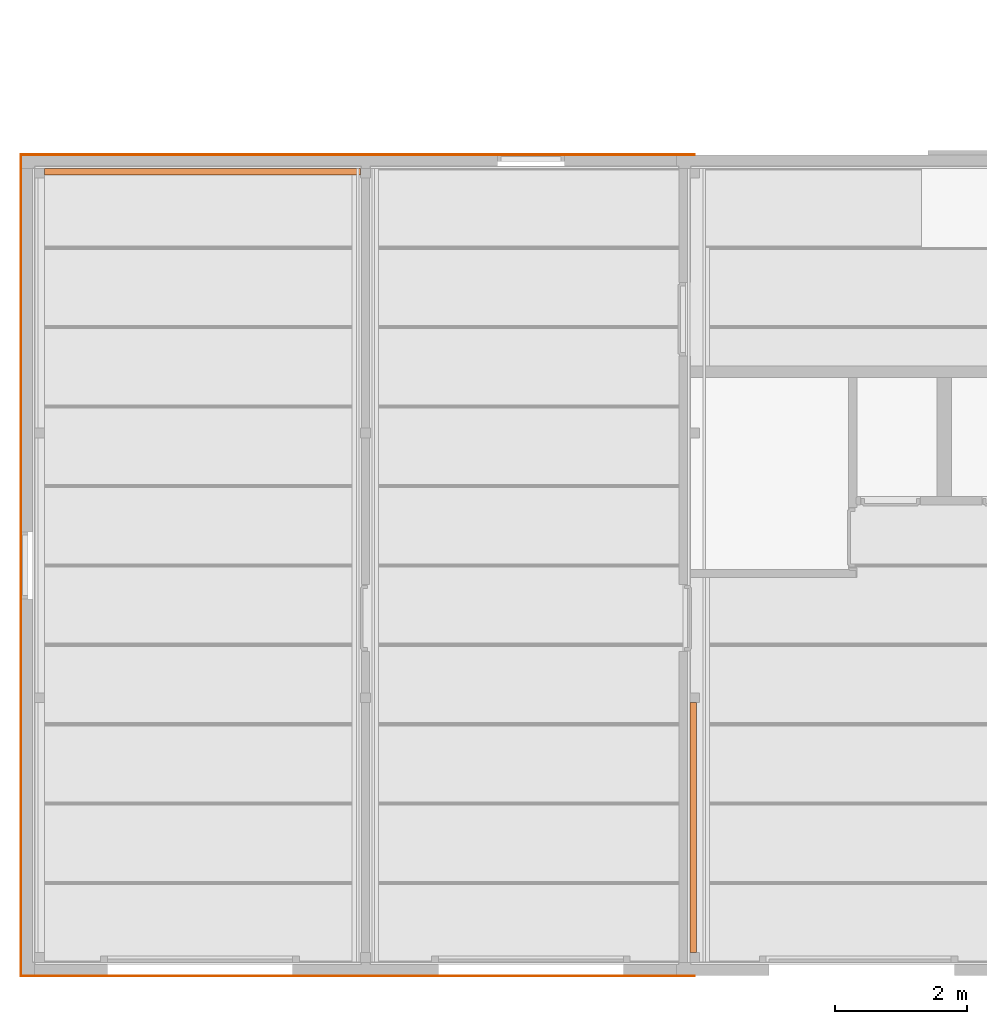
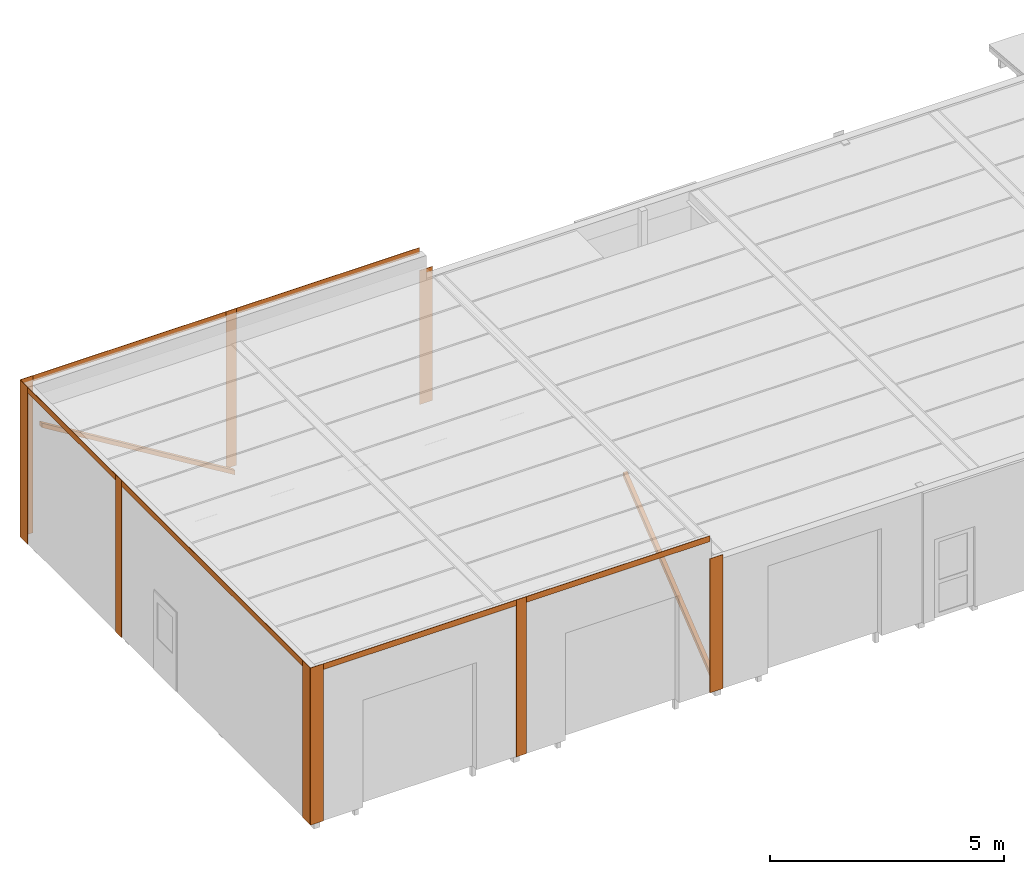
# One storey, part 42 of 45: 14 proxies.
"""IFC2X3 building model written with IfcOpenShell, lengths in millimetres."""

from ifc_helpers import new_model, entity, si_unit, converted_unit, frame, origin, place, context, subcontext, project, spatial, faceted_brep, material, element, save


model = new_model("IFC2X3")

# Units and contexts
model_context = context("Model", 3, precision=1e-05, world=origin())
plan_context = context("Plan", 3, precision=1e-05, world=origin())
body_context = subcontext(model_context, "Body", "Model", "MODEL_VIEW")
ifc_project = project(units=[si_unit("LENGTHUNIT", "METRE", prefix="MILLI"), converted_unit("PLANEANGLEUNIT", "DEGREE", entity("IfcPlaneAngleMeasure", 0.0174532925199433), si_unit("PLANEANGLEUNIT", "RADIAN"), dimensions=[0, 0, 0, 0, 0, 0, 0]), si_unit("AREAUNIT", "SQUARE_METRE"), si_unit("VOLUMEUNIT", "CUBIC_METRE")], contexts=[model_context, plan_context])

# Building, storey
building_placement = place(None, origin())
building = spatial("IfcBuilding", under=ifc_project, at=building_placement, Name="HEKF Administrasjonbygg", CompositionType="ELEMENT")
storey_placement = place(building_placement, frame((0.0, 0.0, 6500.0), z_axis=(0.0, 0.0, 1.0), x_axis=(1.0, 0.0, 0.0)))
storey = spatial("IfcBuildingStorey", under=building, at=storey_placement, Name="Plan 1", CompositionType="ELEMENT", Elevation=6500.0)

# Proxies
ifc_material_1 = material(Name="HUP100x200")
proxy_1_placement = place(storey_placement, frame((149.9900000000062, -100.0099999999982, -0.01000000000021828), z_axis=(0.0, 0.0, 1.0), x_axis=(1.0, 0.0, 0.0)))
element("IfcBuildingElementProxy", 1, at=proxy_1_placement, inside=storey, material=ifc_material_1, context=body_context, shape_type="Brep", body=[
    faceted_brep([(0.01000000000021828, 100.0100000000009, 3026.578014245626), (0.01000000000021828, 100.0100000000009, 2909.477130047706), (4775.009999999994, 100.01, 0.01000000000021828), (4775.009999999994, 100.01, 117.1108841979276), (0.01000000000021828, 0.0100000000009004, 2909.477130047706), (0.01000000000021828, 0.0100000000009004, 3026.578014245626), (4775.009999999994, 0.009999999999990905, 117.1108841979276), (4775.009999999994, 0.009999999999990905, 0.01000000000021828), (0.01000000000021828, 100.0100000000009, 2909.477130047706), (0.01000000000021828, 100.0100000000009, 3026.578014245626), (0.01000000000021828, 0.0100000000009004, 3026.578014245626), (0.01000000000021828, 0.0100000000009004, 2909.477130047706), (4775.009999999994, 100.01, 0.01000000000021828), (0.01000000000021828, 100.0100000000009, 2909.477130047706), (0.01000000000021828, 0.0100000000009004, 2909.477130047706), (4775.009999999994, 0.009999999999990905, 0.01000000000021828), (4775.009999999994, 100.01, 117.1108841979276), (4775.009999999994, 100.01, 0.01000000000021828), (4775.009999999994, 0.009999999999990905, 0.01000000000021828), (4775.009999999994, 0.009999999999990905, 117.1108841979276), (0.01000000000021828, 100.0100000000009, 3026.578014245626), (4775.009999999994, 100.01, 117.1108841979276), (4775.009999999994, 0.009999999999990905, 117.1108841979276), (0.01000000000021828, 0.0100000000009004, 3026.578014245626)], [[[0, 1, 2, 3]], [[4, 5, 6, 7]], [[8, 9, 10, 11]], [[12, 13, 14, 15]], [[16, 17, 18, 19]], [[20, 21, 22, 23]]], orient=[[False], [False], [False], [False], [False], [False]]),
])
ifc_material_2 = material(Name="HUP100x200")
proxy_2_placement = place(storey_placement, frame((9899.989999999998, -11850.00999999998, 17.7515429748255), z_axis=(0.0, 0.0, 1.0), x_axis=(1.0, 0.0, 0.0)))
element("IfcBuildingElementProxy", 2, at=proxy_2_placement, inside=storey, material=ifc_material_2, context=body_context, shape_type="Brep", body=[
    faceted_brep([(0.01000000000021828, 0.01000000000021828, 128.1404923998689), (0.01000000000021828, 0.01000000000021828, 0.01000000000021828), (0.01000000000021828, 3775.009999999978, 3024.117964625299), (0.01000000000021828, 3775.009999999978, 3152.248457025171), (100.0100000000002, 0.01000000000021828, 0.01000000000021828), (100.0100000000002, 0.01000000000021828, 128.1404923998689), (100.0100000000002, 3775.009999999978, 3152.248457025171), (100.0100000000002, 3775.009999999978, 3024.117964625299), (0.01000000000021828, 0.01000000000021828, 0.01000000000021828), (0.01000000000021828, 0.01000000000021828, 128.1404923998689), (100.0100000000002, 0.01000000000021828, 128.1404923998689), (100.0100000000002, 0.01000000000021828, 0.01000000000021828), (0.01000000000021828, 3775.009999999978, 3024.117964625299), (0.01000000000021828, 0.01000000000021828, 0.01000000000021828), (100.0100000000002, 0.01000000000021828, 0.01000000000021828), (100.0100000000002, 3775.009999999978, 3024.117964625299), (0.01000000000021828, 3775.009999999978, 3152.248457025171), (0.01000000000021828, 3775.009999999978, 3024.117964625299), (100.0100000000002, 3775.009999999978, 3024.117964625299), (100.0100000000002, 3775.009999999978, 3152.248457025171), (0.01000000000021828, 0.01000000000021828, 128.1404923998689), (0.01000000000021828, 3775.009999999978, 3152.248457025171), (100.0100000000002, 3775.009999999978, 3152.248457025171), (100.0100000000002, 0.01000000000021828, 128.1404923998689)], [[[0, 1, 2, 3]], [[4, 5, 6, 7]], [[8, 9, 10, 11]], [[12, 13, 14, 15]], [[16, 17, 18, 19]], [[20, 21, 22, 23]]], orient=[[False], [False], [False], [False], [False], [False]]),
])
ifc_material_3 = material(Name="T24")
proxy_3_placement = place(storey_placement, frame((4874.990000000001, -12210.01000000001, -0.01000000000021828), z_axis=(0.0, 0.0, 1.0), x_axis=(1.0, 0.0, 0.0)))
element("IfcBuildingElementProxy", 3, at=proxy_3_placement, inside=storey, material=ifc_material_3, context=body_context, shape_type="Brep", body=[
    faceted_brep([(0.01000000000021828, 10.01000000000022, 0.01000000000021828), (0.01000000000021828, 10.01000000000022, 4100.01), (0.01000000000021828, 0.01000000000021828, 4100.01), (0.01000000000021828, 0.01000000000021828, 0.01000000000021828), (250.0100000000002, 10.01000000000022, 0.01000000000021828), (0.01000000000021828, 10.01000000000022, 0.01000000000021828), (0.01000000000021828, 0.01000000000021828, 0.01000000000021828), (250.0100000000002, 0.01000000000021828, 0.01000000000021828), (250.0100000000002, 10.01000000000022, 4100.01), (250.0100000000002, 10.01000000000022, 0.01000000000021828), (250.0100000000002, 0.01000000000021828, 0.01000000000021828), (250.0100000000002, 0.01000000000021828, 4100.01), (0.01000000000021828, 10.01000000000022, 4100.01), (250.0100000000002, 10.01000000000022, 4100.01), (250.0100000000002, 0.01000000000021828, 4100.01), (0.01000000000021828, 0.01000000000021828, 4100.01), (0.01000000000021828, 0.01000000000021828, 0.01000000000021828), (0.01000000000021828, 0.01000000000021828, 4100.01), (250.0100000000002, 0.01000000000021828, 4100.01), (250.0100000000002, 0.01000000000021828, 0.01000000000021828), (250.0100000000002, 10.01000000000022, 0.01000000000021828), (250.0100000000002, 10.01000000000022, 4100.01), (0.01000000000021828, 10.01000000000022, 4100.01), (0.01000000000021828, 10.01000000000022, 0.01000000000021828)], [[[0, 1, 2, 3]], [[4, 5, 6, 7]], [[8, 9, 10, 11]], [[12, 13, 14, 15]], [[16, 17, 18, 19]], [[20, 21, 22, 23]]], orient=[[False], [False], [False], [False], [False], [False]]),
])
ifc_material_4 = material(Name="T24")
proxy_4_placement = place(storey_placement, frame((-210.0100000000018, -12210.01000000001, -0.01000000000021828), z_axis=(0.0, 0.0, 1.0), x_axis=(1.0, 0.0, 0.0)))
element("IfcBuildingElementProxy", 4, at=proxy_4_placement, inside=storey, material=ifc_material_4, context=body_context, shape_type="Brep", body=[
    faceted_brep([(320.01, 0.01000000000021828, 0.01000000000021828), (320.01, 0.01000000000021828, 4100.01), (320.01, 10.01000000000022, 4100.01), (320.01, 10.01000000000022, 0.01000000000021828), (0.009999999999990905, 0.01000000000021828, 0.01000000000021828), (320.01, 0.01000000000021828, 0.01000000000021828), (320.01, 10.01000000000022, 0.01000000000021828), (0.009999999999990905, 10.01000000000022, 0.01000000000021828), (0.009999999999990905, 0.01000000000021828, 4100.01), (0.009999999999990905, 0.01000000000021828, 0.01000000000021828), (0.009999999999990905, 10.01000000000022, 0.01000000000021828), (0.009999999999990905, 10.01000000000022, 4100.01), (320.01, 0.01000000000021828, 4100.01), (0.009999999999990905, 0.01000000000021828, 4100.01), (0.009999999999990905, 10.01000000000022, 4100.01), (320.01, 10.01000000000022, 4100.01), (320.01, 10.01000000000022, 0.01000000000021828), (320.01, 10.01000000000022, 4100.01), (0.009999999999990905, 10.01000000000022, 4100.01), (0.009999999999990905, 10.01000000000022, 0.01000000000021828), (0.009999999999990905, 0.01000000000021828, 0.01000000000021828), (0.009999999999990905, 0.01000000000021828, 4100.01), (320.01, 0.01000000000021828, 4100.01), (320.01, 0.01000000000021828, 0.01000000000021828)], [[[0, 1, 2, 3]], [[4, 5, 6, 7]], [[8, 9, 10, 11]], [[12, 13, 14, 15]], [[16, 17, 18, 19]], [[20, 21, 22, 23]]], orient=[[False], [False], [False], [False], [False], [False]]),
])
ifc_material_5 = material(Name="T24")
proxy_5_placement = place(storey_placement, frame((-210.010000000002, -12210.01000000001, 3949.99), z_axis=(0.0, 0.0, 1.0), x_axis=(1.0, 0.0, 0.0)))
element("IfcBuildingElementProxy", 5, at=proxy_5_placement, inside=storey, material=ifc_material_5, context=body_context, shape_type="Brep", body=[
    faceted_brep([(9864.010000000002, 10.01000000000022, 0.01000000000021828), (0.009999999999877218, 10.01000000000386, 0.01000000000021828), (0.009999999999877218, 0.01000000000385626, 0.01000000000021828), (9864.010000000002, 0.01000000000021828, 0.01000000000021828), (9864.010000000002, 10.01000000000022, 150.0100000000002), (9864.010000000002, 10.01000000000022, 0.01000000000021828), (9864.010000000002, 0.01000000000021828, 0.01000000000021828), (9864.010000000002, 0.01000000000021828, 150.0100000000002), (0.009999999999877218, 10.01000000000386, 150.0100000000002), (9864.010000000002, 10.01000000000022, 150.0100000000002), (9864.010000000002, 0.01000000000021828, 150.0100000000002), (0.009999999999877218, 0.01000000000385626, 150.0100000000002), (0.009999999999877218, 10.01000000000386, 0.01000000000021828), (0.009999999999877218, 10.01000000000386, 150.0100000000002), (0.009999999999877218, 0.01000000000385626, 150.0100000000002), (0.009999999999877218, 0.01000000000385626, 0.01000000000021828), (9864.010000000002, 0.01000000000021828, 0.01000000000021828), (0.009999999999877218, 0.01000000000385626, 0.01000000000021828), (0.009999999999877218, 0.01000000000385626, 150.0100000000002), (9864.010000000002, 0.01000000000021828, 150.0100000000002), (9864.010000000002, 10.01000000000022, 150.0100000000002), (0.009999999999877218, 10.01000000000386, 150.0100000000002), (0.009999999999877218, 10.01000000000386, 0.01000000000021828), (9864.010000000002, 10.01000000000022, 0.01000000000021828)], [[[0, 1, 2, 3]], [[4, 5, 6, 7]], [[8, 9, 10, 11]], [[12, 13, 14, 15]], [[16, 17, 18, 19]], [[20, 21, 22, 23]]], orient=[[False], [False], [False], [False], [False], [False]]),
])
ifc_material_6 = material(Name="T24")
proxy_6_placement = place(storey_placement, frame((-210.0100000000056, -12200.01, -0.01000000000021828), z_axis=(0.0, 0.0, 1.0), x_axis=(1.0, 0.0, 0.0)))
element("IfcBuildingElementProxy", 6, at=proxy_6_placement, inside=storey, material=ifc_material_6, context=body_context, shape_type="Brep", body=[
    faceted_brep([(0.009999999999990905, 320.0100000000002, 0.01000000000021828), (10.00999999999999, 320.0100000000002, 0.01000000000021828), (10.00999999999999, 320.0100000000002, 4100.01), (0.009999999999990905, 320.0100000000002, 4100.01), (0.009999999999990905, 0.01000000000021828, 0.01000000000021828), (10.00999999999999, 0.01000000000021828, 0.01000000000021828), (10.00999999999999, 320.0100000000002, 0.01000000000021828), (0.009999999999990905, 320.0100000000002, 0.01000000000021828), (0.009999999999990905, 0.01000000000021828, 4100.01), (10.00999999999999, 0.01000000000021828, 4100.01), (10.00999999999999, 0.01000000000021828, 0.01000000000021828), (0.009999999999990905, 0.01000000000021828, 0.01000000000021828), (0.009999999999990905, 320.0100000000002, 4100.01), (10.00999999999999, 320.0100000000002, 4100.01), (10.00999999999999, 0.01000000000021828, 4100.01), (0.009999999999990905, 0.01000000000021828, 4100.01), (10.00999999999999, 320.0100000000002, 0.01000000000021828), (10.00999999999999, 0.01000000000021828, 0.01000000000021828), (10.00999999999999, 0.01000000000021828, 4100.01), (10.00999999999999, 320.0100000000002, 4100.01), (0.009999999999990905, 0.01000000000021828, 0.01000000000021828), (0.009999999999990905, 320.0100000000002, 0.01000000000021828), (0.009999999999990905, 320.0100000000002, 4100.01), (0.009999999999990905, 0.01000000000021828, 4100.01)], [[[0, 1, 2, 3]], [[4, 5, 6, 7]], [[8, 9, 10, 11]], [[12, 13, 14, 15]], [[16, 17, 18, 19]], [[20, 21, 22, 23]]], orient=[[False], [False], [False], [False], [False], [False]]),
])
ifc_material_7 = material(Name="T24")
proxy_7_placement = place(storey_placement, frame((-210.010000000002, -12200.01, 3949.99), z_axis=(0.0, 0.0, 1.0), x_axis=(1.0, 0.0, 0.0)))
element("IfcBuildingElementProxy", 7, at=proxy_7_placement, inside=storey, material=ifc_material_7, context=body_context, shape_type="Brep", body=[
    faceted_brep([(10.01000000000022, 12230.01000000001, 0.01000000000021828), (0.01000000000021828, 12230.01000000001, 0.01000000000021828), (0.009999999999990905, 0.01000000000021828, 0.01000000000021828), (10.00999999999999, 0.01000000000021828, 0.01000000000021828), (10.01000000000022, 12230.01000000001, 150.0100000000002), (0.01000000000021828, 12230.01000000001, 150.0100000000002), (0.01000000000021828, 12230.01000000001, 0.01000000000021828), (10.01000000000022, 12230.01000000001, 0.01000000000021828), (10.00999999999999, 0.01000000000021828, 150.0100000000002), (0.009999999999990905, 0.01000000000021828, 150.0100000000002), (0.01000000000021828, 12230.01000000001, 150.0100000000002), (10.01000000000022, 12230.01000000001, 150.0100000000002), (10.00999999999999, 0.01000000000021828, 0.01000000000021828), (0.009999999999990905, 0.01000000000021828, 0.01000000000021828), (0.009999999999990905, 0.01000000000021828, 150.0100000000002), (10.00999999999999, 0.01000000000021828, 150.0100000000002), (0.01000000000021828, 12230.01000000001, 0.01000000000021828), (0.01000000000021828, 12230.01000000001, 150.0100000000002), (0.009999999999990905, 0.01000000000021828, 150.0100000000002), (0.009999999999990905, 0.01000000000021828, 0.01000000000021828), (10.01000000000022, 12230.01000000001, 150.0100000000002), (10.01000000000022, 12230.01000000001, 0.01000000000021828), (10.00999999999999, 0.01000000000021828, 0.01000000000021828), (10.00999999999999, 0.01000000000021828, 150.0100000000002)], [[[0, 1, 2, 3]], [[4, 5, 6, 7]], [[8, 9, 10, 11]], [[12, 13, 14, 15]], [[16, 17, 18, 19]], [[20, 21, 22, 23]]], orient=[[False], [False], [False], [False], [False], [False]]),
])
ifc_material_8 = material(Name="T24")
proxy_8_placement = place(storey_placement, frame((-210.0099999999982, -120.0099999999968, -0.01000000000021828), z_axis=(0.0, 0.0, 1.0), x_axis=(1.0, 0.0, 0.0)))
element("IfcBuildingElementProxy", 8, at=proxy_8_placement, inside=storey, material=ifc_material_8, context=body_context, shape_type="Brep", body=[
    faceted_brep([(0.009999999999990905, 320.01, 0.01000000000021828), (10.00999999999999, 320.01, 0.01000000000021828), (10.00999999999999, 320.0100000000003, 4100.01), (0.009999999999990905, 320.0100000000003, 4100.01), (0.009999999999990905, 0.009999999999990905, 0.01000000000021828), (10.00999999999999, 0.009999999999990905, 0.01000000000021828), (10.00999999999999, 320.01, 0.01000000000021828), (0.009999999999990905, 320.01, 0.01000000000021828), (0.009999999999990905, 0.01000000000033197, 4100.01), (10.00999999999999, 0.01000000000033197, 4100.01), (10.00999999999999, 0.009999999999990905, 0.01000000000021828), (0.009999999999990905, 0.009999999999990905, 0.01000000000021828), (0.009999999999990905, 320.0100000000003, 4100.01), (10.00999999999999, 320.0100000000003, 4100.01), (10.00999999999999, 0.01000000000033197, 4100.01), (0.009999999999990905, 0.01000000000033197, 4100.01), (10.00999999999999, 320.01, 0.01000000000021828), (10.00999999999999, 0.009999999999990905, 0.01000000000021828), (10.00999999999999, 0.01000000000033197, 4100.01), (10.00999999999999, 320.0100000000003, 4100.01), (0.009999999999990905, 0.009999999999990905, 0.01000000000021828), (0.009999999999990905, 320.01, 0.01000000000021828), (0.009999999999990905, 320.0100000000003, 4100.01), (0.009999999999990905, 0.01000000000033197, 4100.01)], [[[0, 1, 2, 3]], [[4, 5, 6, 7]], [[8, 9, 10, 11]], [[12, 13, 14, 15]], [[16, 17, 18, 19]], [[20, 21, 22, 23]]], orient=[[False], [False], [False], [False], [False], [False]]),
])
ifc_material_9 = material(Name="T24")
proxy_9_placement = place(storey_placement, frame((-210.0100000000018, 199.9900000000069, -0.01000000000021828), z_axis=(0.0, 0.0, 1.0), x_axis=(1.0, 0.0, 0.0)))
element("IfcBuildingElementProxy", 9, at=proxy_9_placement, inside=storey, material=ifc_material_9, context=body_context, shape_type="Brep", body=[
    faceted_brep([(320.01, 10.00999999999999, 0.01000000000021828), (320.01, 0.009999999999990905, 0.01000000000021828), (320.01, 0.01000000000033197, 4100.01), (320.01, 10.01000000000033, 4100.01), (0.009999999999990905, 10.00999999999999, 0.01000000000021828), (0.009999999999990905, 0.009999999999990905, 0.01000000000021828), (320.01, 0.009999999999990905, 0.01000000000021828), (320.01, 10.00999999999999, 0.01000000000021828), (0.009999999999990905, 10.01000000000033, 4100.01), (0.009999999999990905, 0.01000000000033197, 4100.01), (0.009999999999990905, 0.009999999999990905, 0.01000000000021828), (0.009999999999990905, 10.00999999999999, 0.01000000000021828), (320.01, 10.01000000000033, 4100.01), (320.01, 0.01000000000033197, 4100.01), (0.009999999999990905, 0.01000000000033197, 4100.01), (0.009999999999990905, 10.01000000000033, 4100.01), (320.01, 0.009999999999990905, 0.01000000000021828), (0.009999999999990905, 0.009999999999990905, 0.01000000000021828), (0.009999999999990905, 0.01000000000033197, 4100.01), (320.01, 0.01000000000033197, 4100.01), (0.009999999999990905, 10.00999999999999, 0.01000000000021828), (320.01, 10.00999999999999, 0.01000000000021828), (320.01, 10.01000000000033, 4100.01), (0.009999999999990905, 10.01000000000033, 4100.01)], [[[0, 1, 2, 3]], [[4, 5, 6, 7]], [[8, 9, 10, 11]], [[12, 13, 14, 15]], [[16, 17, 18, 19]], [[20, 21, 22, 23]]], orient=[[False], [False], [False], [False], [False], [False]]),
])
ifc_material_10 = material(Name="T24")
proxy_10_placement = place(storey_placement, frame((109.989999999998, 199.9900000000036, 3949.99), z_axis=(0.0, 0.0, 1.0), x_axis=(1.0, 0.0, 0.0)))
element("IfcBuildingElementProxy", 10, at=proxy_10_placement, inside=storey, material=ifc_material_10, context=body_context, shape_type="Brep", body=[
    faceted_brep([(9544.010000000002, 0.01000000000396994, 0.01000000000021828), (9544.010000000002, 10.01000000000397, 0.01000000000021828), (0.01000000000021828, 10.00999999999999, 0.01000000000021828), (0.01000000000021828, 0.009999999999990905, 0.01000000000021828), (9544.010000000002, 0.01000000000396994, 150.0100000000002), (9544.010000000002, 10.01000000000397, 150.0100000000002), (9544.010000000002, 10.01000000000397, 0.01000000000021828), (9544.010000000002, 0.01000000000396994, 0.01000000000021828), (0.01000000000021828, 0.009999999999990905, 150.0100000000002), (0.01000000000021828, 10.00999999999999, 150.0100000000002), (9544.010000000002, 10.01000000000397, 150.0100000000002), (9544.010000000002, 0.01000000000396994, 150.0100000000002), (0.01000000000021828, 0.009999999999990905, 0.01000000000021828), (0.01000000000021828, 10.00999999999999, 0.01000000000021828), (0.01000000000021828, 10.00999999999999, 150.0100000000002), (0.01000000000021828, 0.009999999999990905, 150.0100000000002), (9544.010000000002, 10.01000000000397, 0.01000000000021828), (9544.010000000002, 10.01000000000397, 150.0100000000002), (0.01000000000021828, 10.00999999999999, 150.0100000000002), (0.01000000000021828, 10.00999999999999, 0.01000000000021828), (9544.010000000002, 0.01000000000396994, 150.0100000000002), (9544.010000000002, 0.01000000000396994, 0.01000000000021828), (0.01000000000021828, 0.009999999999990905, 0.01000000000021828), (0.01000000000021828, 0.009999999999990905, 150.0100000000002)], [[[0, 1, 2, 3]], [[4, 5, 6, 7]], [[8, 9, 10, 11]], [[12, 13, 14, 15]], [[16, 17, 18, 19]], [[20, 21, 22, 23]]], orient=[[False], [False], [False], [False], [False], [False]]),
])
ifc_material_11 = material(Name="T24")
proxy_11_placement = place(storey_placement, frame((4874.990000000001, 199.9900000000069, -0.01000000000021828), z_axis=(0.0, 0.0, 1.0), x_axis=(1.0, 0.0, 0.0)))
element("IfcBuildingElementProxy", 11, at=proxy_11_placement, inside=storey, material=ifc_material_11, context=body_context, shape_type="Brep", body=[
    faceted_brep([(0.01000000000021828, 0.009999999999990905, 0.01000000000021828), (0.01000000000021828, 10.00999999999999, 0.01000000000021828), (0.01000000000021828, 10.01000000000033, 4100.01), (0.01000000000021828, 0.01000000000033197, 4100.01), (250.0100000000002, 0.009999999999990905, 0.01000000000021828), (250.0100000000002, 10.00999999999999, 0.01000000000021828), (0.01000000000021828, 10.00999999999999, 0.01000000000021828), (0.01000000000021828, 0.009999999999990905, 0.01000000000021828), (250.0100000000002, 0.01000000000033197, 4100.01), (250.0100000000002, 10.01000000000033, 4100.01), (250.0100000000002, 10.00999999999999, 0.01000000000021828), (250.0100000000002, 0.009999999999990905, 0.01000000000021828), (0.01000000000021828, 0.01000000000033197, 4100.01), (0.01000000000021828, 10.01000000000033, 4100.01), (250.0100000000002, 10.01000000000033, 4100.01), (250.0100000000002, 0.01000000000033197, 4100.01), (0.01000000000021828, 10.00999999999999, 0.01000000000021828), (250.0100000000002, 10.00999999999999, 0.01000000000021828), (250.0100000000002, 10.01000000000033, 4100.01), (0.01000000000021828, 10.01000000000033, 4100.01), (250.0100000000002, 0.009999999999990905, 0.01000000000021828), (0.01000000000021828, 0.009999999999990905, 0.01000000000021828), (0.01000000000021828, 0.01000000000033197, 4100.01), (250.0100000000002, 0.01000000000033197, 4100.01)], [[[0, 1, 2, 3]], [[4, 5, 6, 7]], [[8, 9, 10, 11]], [[12, 13, 14, 15]], [[16, 17, 18, 19]], [[20, 21, 22, 23]]], orient=[[False], [False], [False], [False], [False], [False]]),
])
ifc_material_12 = material(Name="T24")
proxy_12_placement = place(storey_placement, frame((-210.0100000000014, -4125.009999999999, -0.01000000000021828), z_axis=(0.0, 0.0, 1.0), x_axis=(1.0, 0.0, 0.0)))
element("IfcBuildingElementProxy", 12, at=proxy_12_placement, inside=storey, material=ifc_material_12, context=body_context, shape_type="Brep", body=[
    faceted_brep([(10.01000000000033, 0.01000000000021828, 0.01000000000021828), (0.01000000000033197, 0.01000000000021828, 0.01000000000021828), (0.009999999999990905, 0.01000000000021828, 4100.01), (10.00999999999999, 0.01000000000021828, 4100.01), (10.01000000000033, 250.0100000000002, 0.01000000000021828), (0.01000000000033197, 250.0100000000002, 0.01000000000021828), (0.01000000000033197, 0.01000000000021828, 0.01000000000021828), (10.01000000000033, 0.01000000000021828, 0.01000000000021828), (10.00999999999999, 250.0100000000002, 4100.01), (0.009999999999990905, 250.0100000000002, 4100.01), (0.01000000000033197, 250.0100000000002, 0.01000000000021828), (10.01000000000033, 250.0100000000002, 0.01000000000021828), (10.00999999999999, 0.01000000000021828, 4100.01), (0.009999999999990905, 0.01000000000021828, 4100.01), (0.009999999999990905, 250.0100000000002, 4100.01), (10.00999999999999, 250.0100000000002, 4100.01), (0.01000000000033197, 0.01000000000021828, 0.01000000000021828), (0.01000000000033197, 250.0100000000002, 0.01000000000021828), (0.009999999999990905, 250.0100000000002, 4100.01), (0.009999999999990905, 0.01000000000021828, 4100.01), (10.01000000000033, 250.0100000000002, 0.01000000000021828), (10.01000000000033, 0.01000000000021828, 0.01000000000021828), (10.00999999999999, 0.01000000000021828, 4100.01), (10.00999999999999, 250.0100000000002, 4100.01)], [[[0, 1, 2, 3]], [[4, 5, 6, 7]], [[8, 9, 10, 11]], [[12, 13, 14, 15]], [[16, 17, 18, 19]], [[20, 21, 22, 23]]], orient=[[False], [False], [False], [False], [False], [False]]),
])
ifc_material_13 = material(Name="T24")
proxy_13_placement = place(storey_placement, frame((9653.989999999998, -12210.01000000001, 0.9899999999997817), z_axis=(0.0, 0.0, 1.0), x_axis=(1.0, 0.0, 0.0)))
element("IfcBuildingElementProxy", 13, at=proxy_13_placement, inside=storey, material=ifc_material_13, context=body_context, shape_type="Brep", body=[
    faceted_brep([(0.01000000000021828, 0.01000000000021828, 0.01000000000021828), (0.01000000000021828, 10.01000000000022, 0.01000000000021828), (0.01000000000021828, 10.01000000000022, 3499.01), (0.01000000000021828, 0.01000000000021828, 3499.01), (320.0100000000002, 0.01000000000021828, 0.01000000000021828), (320.0100000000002, 10.01000000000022, 0.01000000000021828), (0.01000000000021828, 10.01000000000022, 0.01000000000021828), (0.01000000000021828, 0.01000000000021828, 0.01000000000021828), (320.0100000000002, 0.01000000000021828, 3499.01), (320.0100000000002, 10.01000000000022, 3499.01), (320.0100000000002, 10.01000000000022, 0.01000000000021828), (320.0100000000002, 0.01000000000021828, 0.01000000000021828), (0.01000000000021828, 0.01000000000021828, 3499.01), (0.01000000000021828, 10.01000000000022, 3499.01), (320.0100000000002, 10.01000000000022, 3499.01), (320.0100000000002, 0.01000000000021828, 3499.01), (0.01000000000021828, 10.01000000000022, 0.01000000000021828), (320.0100000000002, 10.01000000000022, 0.01000000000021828), (320.0100000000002, 10.01000000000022, 3499.01), (0.01000000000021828, 10.01000000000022, 3499.01), (320.0100000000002, 0.01000000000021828, 0.01000000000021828), (0.01000000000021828, 0.01000000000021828, 0.01000000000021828), (0.01000000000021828, 0.01000000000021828, 3499.01), (320.0100000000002, 0.01000000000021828, 3499.01)], [[[0, 1, 2, 3]], [[4, 5, 6, 7]], [[8, 9, 10, 11]], [[12, 13, 14, 15]], [[16, 17, 18, 19]], [[20, 21, 22, 23]]], orient=[[False], [False], [False], [False], [False], [False]]),
])
ifc_material_14 = material(Name="T24")
proxy_14_placement = place(storey_placement, frame((9653.989999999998, 199.9900000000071, 0.9899999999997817), z_axis=(0.0, 0.0, 1.0), x_axis=(1.0, 0.0, 0.0)))
element("IfcBuildingElementProxy", 14, at=proxy_14_placement, inside=storey, material=ifc_material_14, context=body_context, shape_type="Brep", body=[
    faceted_brep([(0.01000000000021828, 10.01000000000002, 0.01000000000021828), (0.01000000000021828, 10.0100000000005, 3499.01), (0.01000000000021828, 0.0100000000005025, 3499.01), (0.01000000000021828, 0.01000000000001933, 0.01000000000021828), (320.0100000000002, 10.01000000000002, 0.01000000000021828), (0.01000000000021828, 10.01000000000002, 0.01000000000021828), (0.01000000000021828, 0.01000000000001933, 0.01000000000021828), (320.0100000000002, 0.01000000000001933, 0.01000000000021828), (320.0100000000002, 10.0100000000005, 3499.01), (320.0100000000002, 10.01000000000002, 0.01000000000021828), (320.0100000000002, 0.01000000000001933, 0.01000000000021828), (320.0100000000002, 0.0100000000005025, 3499.01), (0.01000000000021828, 10.0100000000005, 3499.01), (320.0100000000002, 10.0100000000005, 3499.01), (320.0100000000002, 0.0100000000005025, 3499.01), (0.01000000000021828, 0.0100000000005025, 3499.01), (0.01000000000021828, 0.01000000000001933, 0.01000000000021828), (0.01000000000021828, 0.0100000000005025, 3499.01), (320.0100000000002, 0.0100000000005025, 3499.01), (320.0100000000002, 0.01000000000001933, 0.01000000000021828), (320.0100000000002, 10.01000000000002, 0.01000000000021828), (320.0100000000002, 10.0100000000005, 3499.01), (0.01000000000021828, 10.0100000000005, 3499.01), (0.01000000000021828, 10.01000000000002, 0.01000000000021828)], [[[0, 1, 2, 3]], [[4, 5, 6, 7]], [[8, 9, 10, 11]], [[12, 13, 14, 15]], [[16, 17, 18, 19]], [[20, 21, 22, 23]]], orient=[[False], [False], [False], [False], [False], [False]]),
])

save(model, "model.ifc")
